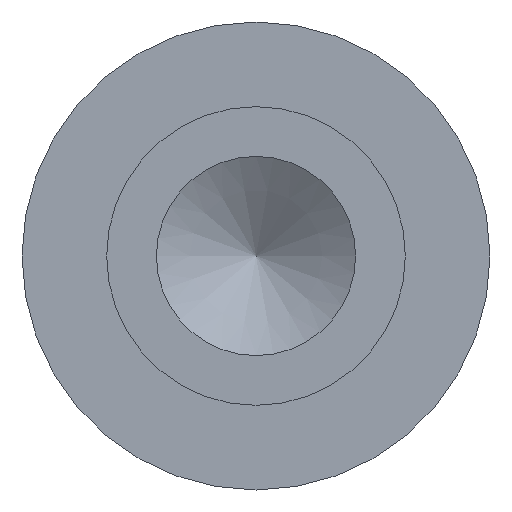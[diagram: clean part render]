
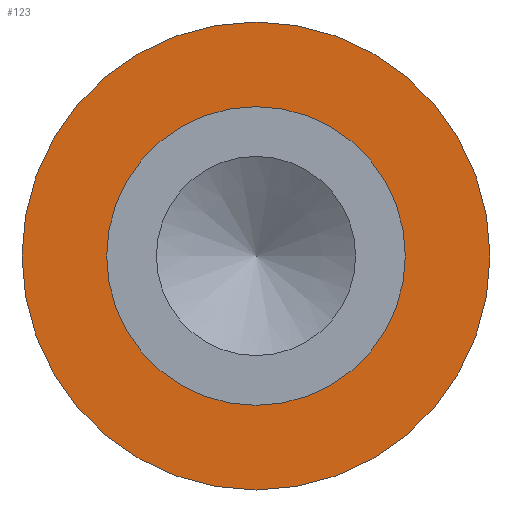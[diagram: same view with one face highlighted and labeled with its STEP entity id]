
A CAD part, left-side view. The second image highlights one B-rep face of the part: STEP entity #123.
In plain terms, the highlighted planar face has unit normal (-1, 0, 0).
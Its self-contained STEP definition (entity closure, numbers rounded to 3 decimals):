
#15=PLANE($,#147);
#24=FACE_BOUND($,#58,.T.);
#40=FACE_OUTER_BOUND($,#57,.T.);
#57=EDGE_LOOP($,(#107));
#58=EDGE_LOOP($,(#108));
#68=CIRCLE($,#143,1.194);
#69=CIRCLE($,#145,0.762);
#78=VERTEX_POINT($,#216);
#79=VERTEX_POINT($,#219);
#88=EDGE_CURVE($,#78,#78,#68,.T.);
#89=EDGE_CURVE($,#79,#79,#69,.T.);
#107=ORIENTED_EDGE($,*,*,#88,.F.);
#108=ORIENTED_EDGE($,*,*,#89,.T.);
#123=ADVANCED_FACE($,(#40,#24),#15,.T.);
#143=AXIS2_PLACEMENT_3D($,#217,#181,#182);
#145=AXIS2_PLACEMENT_3D($,#220,#185,#186);
#147=AXIS2_PLACEMENT_3D($,#223,#189,#190);
#181=DIRECTION('center_axis',(1.,0.,0.));
#182=DIRECTION('ref_axis',(0.,1.,0.));
#185=DIRECTION('center_axis',(1.,0.,0.));
#186=DIRECTION('ref_axis',(0.,1.,0.));
#189=DIRECTION('center_axis',(-1.,0.,0.));
#190=DIRECTION('ref_axis',(0.,0.,1.));
#216=CARTESIAN_POINT('',(5.56,1.194,0.));
#217=CARTESIAN_POINT('Origin',(5.56,0.,0.));
#219=CARTESIAN_POINT('',(5.56,0.762,0.));
#220=CARTESIAN_POINT('Origin',(5.56,0.,0.));
#223=CARTESIAN_POINT('Origin',(5.56,0.978,0.));
